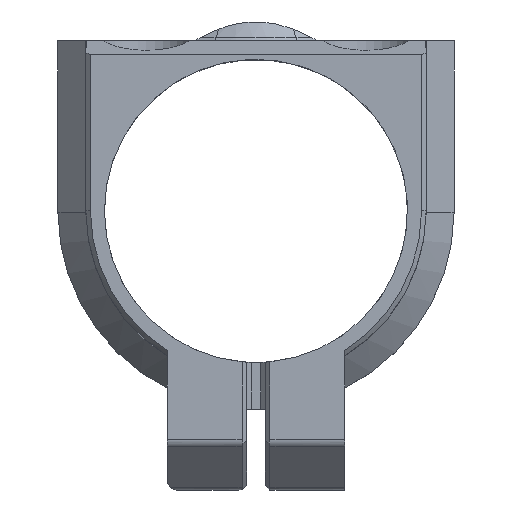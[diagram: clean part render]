
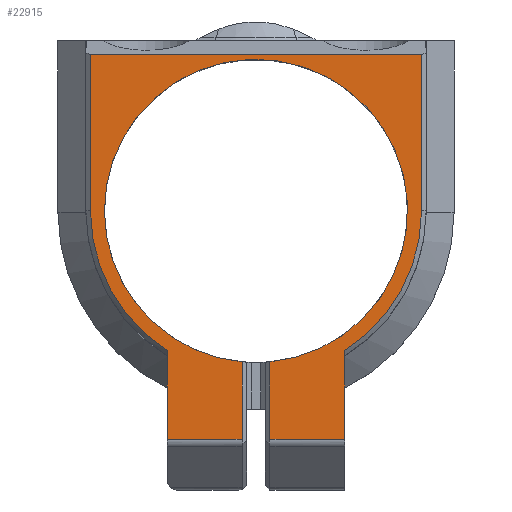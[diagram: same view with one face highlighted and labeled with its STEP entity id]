
A CAD part, top view. The second image highlights one B-rep face of the part: STEP entity #22915.
In plain terms, the highlighted planar face has unit normal (0, 0, 1).
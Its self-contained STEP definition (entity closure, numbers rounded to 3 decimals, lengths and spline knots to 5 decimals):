
#1609=CIRCLE('',#24703,0.0326);
#1615=CIRCLE('',#24718,0.0356);
#1616=CIRCLE('',#24719,0.0356);
#2633=LINE('',#71545,#4038);
#2635=LINE('',#71556,#4040);
#2636=LINE('',#71559,#4041);
#2637=LINE('',#71561,#4042);
#2638=LINE('',#71562,#4043);
#2639=LINE('',#71564,#4044);
#2640=LINE('',#71566,#4045);
#2641=LINE('',#71570,#4046);
#2642=LINE('',#71571,#4047);
#4038=VECTOR('',#27332,1.);
#4040=VECTOR('',#27340,1.);
#4041=VECTOR('',#27341,1.);
#4042=VECTOR('',#27342,1.);
#4043=VECTOR('',#27343,1.);
#4044=VECTOR('',#27344,1.);
#4045=VECTOR('',#27345,1.);
#4046=VECTOR('',#27348,1.);
#4047=VECTOR('',#27349,1.);
#5966=ORIENTED_EDGE('',*,*,#13213,.T.);
#5967=ORIENTED_EDGE('',*,*,#13214,.T.);
#5968=ORIENTED_EDGE('',*,*,#13215,.T.);
#5969=ORIENTED_EDGE('',*,*,#13165,.F.);
#5970=ORIENTED_EDGE('',*,*,#13216,.T.);
#5971=ORIENTED_EDGE('',*,*,#13217,.T.);
#5972=ORIENTED_EDGE('',*,*,#13218,.F.);
#5973=ORIENTED_EDGE('',*,*,#13219,.T.);
#5974=ORIENTED_EDGE('',*,*,#13220,.T.);
#5975=ORIENTED_EDGE('',*,*,#13208,.T.);
#5976=ORIENTED_EDGE('',*,*,#13221,.T.);
#5977=ORIENTED_EDGE('',*,*,#13222,.T.);
#13165=EDGE_CURVE('',#16796,#16797,#1609,.T.);
#13208=EDGE_CURVE('',#16830,#16829,#2633,.T.);
#13213=EDGE_CURVE('',#16832,#16833,#2635,.T.);
#13214=EDGE_CURVE('',#16833,#16834,#2636,.T.);
#13215=EDGE_CURVE('',#16834,#16797,#2637,.T.);
#13216=EDGE_CURVE('',#16796,#16835,#2638,.T.);
#13217=EDGE_CURVE('',#16835,#16836,#2639,.F.);
#13218=EDGE_CURVE('',#16837,#16836,#2640,.T.);
#13219=EDGE_CURVE('',#16837,#16838,#1615,.T.);
#13220=EDGE_CURVE('',#16838,#16830,#2641,.T.);
#13221=EDGE_CURVE('',#16829,#16839,#2642,.T.);
#13222=EDGE_CURVE('',#16839,#16832,#1616,.T.);
#16796=VERTEX_POINT('',#70979);
#16797=VERTEX_POINT('',#70981);
#16829=VERTEX_POINT('',#71544);
#16830=VERTEX_POINT('',#71546);
#16832=VERTEX_POINT('',#71557);
#16833=VERTEX_POINT('',#71558);
#16834=VERTEX_POINT('',#71560);
#16835=VERTEX_POINT('',#71563);
#16836=VERTEX_POINT('',#71565);
#16837=VERTEX_POINT('',#71567);
#16838=VERTEX_POINT('',#71569);
#16839=VERTEX_POINT('',#71572);
#19414=EDGE_LOOP('',(#5966,#5967,#5968,#5969,#5970,#5971,#5972,#5973,#5974,
#5975,#5976,#5977));
#21034=FACE_BOUND('',#19414,.T.);
#22602=PLANE('',#24717);
#22915=ADVANCED_FACE('',(#21034),#22602,.T.);
#24703=AXIS2_PLACEMENT_3D('',#70980,#27297,#27298);
#24717=AXIS2_PLACEMENT_3D('',#71555,#27338,#27339);
#24718=AXIS2_PLACEMENT_3D('',#71568,#27346,#27347);
#24719=AXIS2_PLACEMENT_3D('',#71573,#27350,#27351);
#27297=DIRECTION('',(0.,0.,1.));
#27298=DIRECTION('',(1.,0.,0.));
#27332=DIRECTION('',(-1.,0.,0.));
#27338=DIRECTION('',(0.,0.,1.));
#27339=DIRECTION('',(1.,0.,0.));
#27340=DIRECTION('',(0.,-1.,0.));
#27341=DIRECTION('',(1.,0.,0.));
#27342=DIRECTION('',(0.,1.,0.));
#27343=DIRECTION('',(0.,-1.,0.));
#27344=DIRECTION('',(-1.,0.,0.));
#27345=DIRECTION('',(0.,-1.,0.));
#27346=DIRECTION('',(0.,0.,1.));
#27347=DIRECTION('',(1.,0.,0.));
#27348=DIRECTION('',(0.,1.,0.));
#27349=DIRECTION('',(0.,-1.,0.));
#27350=DIRECTION('',(0.,0.,1.));
#27351=DIRECTION('',(1.,0.,0.));
#70979=CARTESIAN_POINT('',(0.003,-0.03246,0.05));
#70980=CARTESIAN_POINT('',(0.,0.,0.05));
#70981=CARTESIAN_POINT('',(-0.003,-0.03246,0.05));
#71544=CARTESIAN_POINT('',(-0.0356,0.0336,0.05));
#71545=CARTESIAN_POINT('',(0.16932,0.0336,0.05));
#71546=CARTESIAN_POINT('',(0.0356,0.0336,0.05));
#71555=CARTESIAN_POINT('',(0.,-0.0117,0.05));
#71556=CARTESIAN_POINT('',(-0.01905,-0.04563,0.05));
#71557=CARTESIAN_POINT('',(-0.01905,-0.03007,0.05));
#71558=CARTESIAN_POINT('',(-0.01905,-0.04917,0.05));
#71559=CARTESIAN_POINT('',(0.,-0.04917,0.05));
#71560=CARTESIAN_POINT('',(-0.003,-0.04917,0.05));
#71561=CARTESIAN_POINT('',(-0.003,-0.0117,0.05));
#71562=CARTESIAN_POINT('',(0.003,-0.05,0.05));
#71563=CARTESIAN_POINT('',(0.003,-0.04917,0.05));
#71564=CARTESIAN_POINT('',(0.,-0.04917,0.05));
#71565=CARTESIAN_POINT('',(0.01905,-0.04917,0.05));
#71566=CARTESIAN_POINT('',(0.01905,-0.04563,0.05));
#71567=CARTESIAN_POINT('',(0.01905,-0.03007,0.05));
#71568=CARTESIAN_POINT('',(0.,0.,0.05));
#71569=CARTESIAN_POINT('',(0.0356,0.,0.05));
#71570=CARTESIAN_POINT('',(0.0356,0.0336,0.05));
#71571=CARTESIAN_POINT('',(-0.0356,-0.0117,0.05));
#71572=CARTESIAN_POINT('',(-0.0356,0.,0.05));
#71573=CARTESIAN_POINT('',(0.,0.,0.05));
